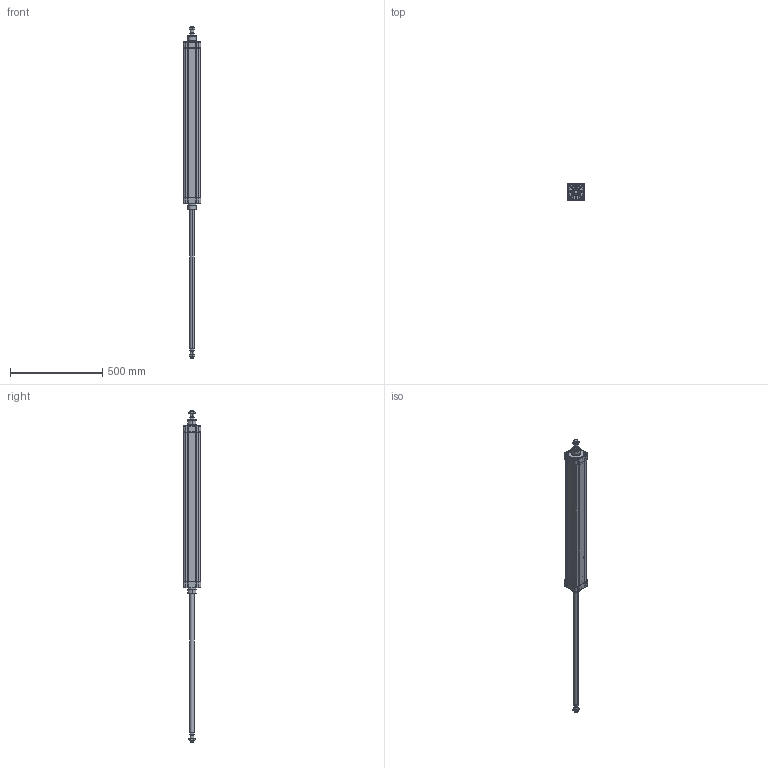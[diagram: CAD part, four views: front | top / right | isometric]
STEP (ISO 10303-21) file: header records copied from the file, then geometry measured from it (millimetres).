
FILE_DESCRIPTION (( 'STEP AP214' ), '1' );
FILE_NAME ('N11M40800750.STEP', '2021-09-28T10:23:48', ( '' ), ( '' ), 'SwSTEP 2.0', 'SolidWorks 2016', '' );
FILE_SCHEMA (( 'AUTOMOTIVE_DESIGN' ));
Length unit declared in the file: millimetre
Products named in the file (7): 21.E03.0000_21.E03.0750; 21.E01.0000_21.E01.0750; N11M40800750; TA Ø80 ISO 15552 WEB; Pistone Ø80 ISO 15552; 21.753.0; 000.514.7_000.514.0750
Assembly tree (8 placements, depth 2):
  N11M40800750
    TA Ø80 ISO 15552 WEB  x2
    21.753.0  x2
    Pistone Ø80 ISO 15552
    21.E01.0000_21.E01.0750
    000.514.7_000.514.0750
    21.E03.0000_21.E03.0750
Bounding box: 93.95 x 93.97 x 1800 mm (x, y, z)
Volume: 3184022.7 mm3; surface area: 1011007.2 mm2
Topology: 20 solids, 20 shells, 2212 faces, 5630 edges, 3549 vertices
Faces by surface type: plane 918, cylinder 682, cone 318, bspline 192, torus 98, sphere 4
Entity records: 50965 total; most frequent: CARTESIAN_POINT 11081, ORIENTED_EDGE 6182, DIRECTION 5897, EDGE_CURVE 3091, AXIS2_PLACEMENT_3D 2112, VERTEX_POINT 1960, LINE 1673, VECTOR 1673
